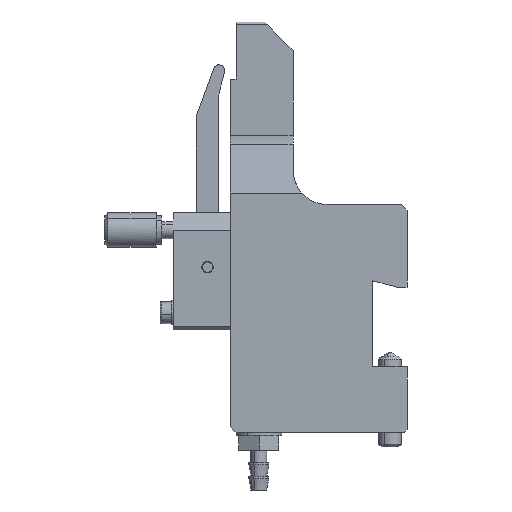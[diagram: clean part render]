
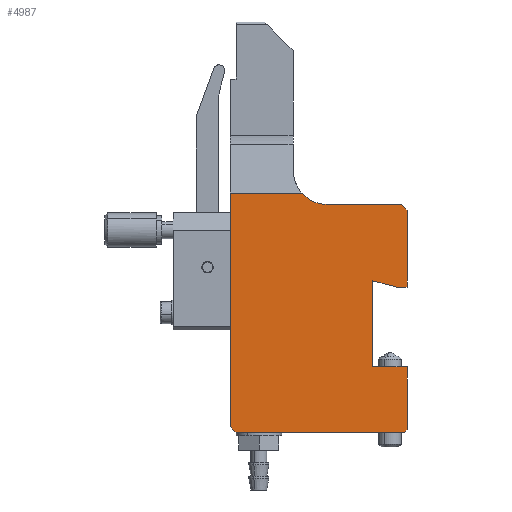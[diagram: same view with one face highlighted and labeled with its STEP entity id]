
A CAD part, left-side view. The second image highlights one B-rep face of the part: STEP entity #4987.
In plain terms, the highlighted planar face has unit normal (-1, 0, 0).
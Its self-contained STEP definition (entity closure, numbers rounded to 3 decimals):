
#43 = VERTEX_POINT ( 'NONE', #6798 ) ;
#167 = EDGE_CURVE ( 'NONE', #1605, #4426, #3188, .T. ) ;
#287 = EDGE_CURVE ( 'NONE', #6679, #3372, #1029, .T. ) ;
#479 = ORIENTED_EDGE ( 'NONE', *, *, #6846, .F. ) ;
#598 = CARTESIAN_POINT ( 'NONE',  ( -10., 31., 1. ) ) ;
#607 = ORIENTED_EDGE ( 'NONE', *, *, #5170, .T. ) ;
#608 = LINE ( 'NONE', #1385, #5720 ) ;
#763 = CARTESIAN_POINT ( 'NONE',  ( -10., 14., 46. ) ) ;
#870 = VECTOR ( 'NONE', #9788, 1000. ) ;
#1029 = LINE ( 'NONE', #4512, #4301 ) ;
#1181 = LINE ( 'NONE', #6470, #8304 ) ;
#1247 = AXIS2_PLACEMENT_3D ( 'NONE', #763, #4799, #2378 ) ;
#1294 = LINE ( 'NONE', #2610, #2313 ) ;
#1385 = CARTESIAN_POINT ( 'NONE',  ( -10., 6., 11.5 ) ) ;
#1597 = CARTESIAN_POINT ( 'NONE',  ( -10., 0., 39. ) ) ;
#1605 = VERTEX_POINT ( 'NONE', #4533 ) ;
#1818 = DIRECTION ( 'NONE',  ( 0., 0.707, 0.707 ) ) ;
#1878 = ORIENTED_EDGE ( 'NONE', *, *, #7493, .T. ) ;
#2313 = VECTOR ( 'NONE', #6573, 1000. ) ;
#2363 = LINE ( 'NONE', #8688, #6603 ) ;
#2378 = DIRECTION ( 'NONE',  ( 0., 0., 1. ) ) ;
#2420 = VECTOR ( 'NONE', #8417, 1000. ) ;
#2439 = LINE ( 'NONE', #5377, #7437 ) ;
#2447 = CARTESIAN_POINT ( 'NONE',  ( -10., -3.1, 46.2 ) ) ;
#2471 = ORIENTED_EDGE ( 'NONE', *, *, #287, .F. ) ;
#2496 = LINE ( 'NONE', #7313, #5487 ) ;
#2597 = VECTOR ( 'NONE', #5372, 1000. ) ;
#2610 = CARTESIAN_POINT ( 'NONE',  ( -10., 0.5, 0. ) ) ;
#2663 = CARTESIAN_POINT ( 'NONE',  ( -10., 0., 39. ) ) ;
#3098 = EDGE_CURVE ( 'NONE', #9707, #4393, #8348, .T. ) ;
#3115 = EDGE_CURVE ( 'NONE', #7685, #4393, #2496, .T. ) ;
#3188 = LINE ( 'NONE', #6062, #2420 ) ;
#3367 = EDGE_LOOP ( 'NONE', ( #2471, #3857, #5605, #9426, #9914, #479, #3648, #3836, #607, #8456, #4364, #10319, #5917, #1878 ) ) ;
#3372 = VERTEX_POINT ( 'NONE', #6924 ) ;
#3486 = EDGE_CURVE ( 'NONE', #10075, #8274, #2363, .T. ) ;
#3648 = ORIENTED_EDGE ( 'NONE', *, *, #4775, .F. ) ;
#3778 = DIRECTION ( 'NONE',  ( 0., -0.707, -0.707 ) ) ;
#3793 = CARTESIAN_POINT ( 'NONE',  ( -10., 0., 25.5 ) ) ;
#3836 = ORIENTED_EDGE ( 'NONE', *, *, #3486, .F. ) ;
#3857 = ORIENTED_EDGE ( 'NONE', *, *, #7811, .T. ) ;
#3957 = EDGE_CURVE ( 'NONE', #4426, #7474, #608, .T. ) ;
#4050 = DIRECTION ( 'NONE',  ( 0., 0., -1. ) ) ;
#4119 = LINE ( 'NONE', #9440, #2597 ) ;
#4182 = DIRECTION ( 'NONE',  ( 1., 0., 0. ) ) ;
#4301 = VECTOR ( 'NONE', #8549, 1000. ) ;
#4364 = ORIENTED_EDGE ( 'NONE', *, *, #7014, .T. ) ;
#4393 = VERTEX_POINT ( 'NONE', #7664 ) ;
#4426 = VERTEX_POINT ( 'NONE', #6792 ) ;
#4512 = CARTESIAN_POINT ( 'NONE',  ( -10., 0.5, 0. ) ) ;
#4533 = CARTESIAN_POINT ( 'NONE',  ( -10., 6., 26.6 ) ) ;
#4598 = DIRECTION ( 'NONE',  ( 0., 1., 0. ) ) ;
#4673 = PLANE ( 'NONE',  #6416 ) ;
#4775 = EDGE_CURVE ( 'NONE', #8274, #7573, #10066, .T. ) ;
#4799 = DIRECTION ( 'NONE',  ( 1., 0., 0. ) ) ;
#4969 = CIRCLE ( 'NONE', #1247, 6. ) ;
#4987 = ADVANCED_FACE ( 'NONE', ( #9194 ), #4673, .F. ) ;
#4995 = DIRECTION ( 'NONE',  ( 0., 0., -1. ) ) ;
#5006 = CARTESIAN_POINT ( 'NONE',  ( -10., 31., 1. ) ) ;
#5170 = EDGE_CURVE ( 'NONE', #10075, #7764, #5454, .T. ) ;
#5196 = VECTOR ( 'NONE', #4995, 1000. ) ;
#5372 = DIRECTION ( 'NONE',  ( 0., 0.966, 0.259 ) ) ;
#5377 = CARTESIAN_POINT ( 'NONE',  ( -10., 31., 1. ) ) ;
#5454 = LINE ( 'NONE', #2663, #9938 ) ;
#5484 = EDGE_CURVE ( 'NONE', #5725, #7764, #1181, .T. ) ;
#5487 = VECTOR ( 'NONE', #9722, 1000. ) ;
#5499 = DIRECTION ( 'NONE',  ( 0., 0., -1. ) ) ;
#5605 = ORIENTED_EDGE ( 'NONE', *, *, #7750, .F. ) ;
#5720 = VECTOR ( 'NONE', #6873, 1000. ) ;
#5725 = VERTEX_POINT ( 'NONE', #9812 ) ;
#5917 = ORIENTED_EDGE ( 'NONE', *, *, #3098, .F. ) ;
#6062 = CARTESIAN_POINT ( 'NONE',  ( -10., 6., 26.6 ) ) ;
#6416 = AXIS2_PLACEMENT_3D ( 'NONE', #2447, #4182, #4050 ) ;
#6470 = CARTESIAN_POINT ( 'NONE',  ( -10., 14., 40. ) ) ;
#6573 = DIRECTION ( 'NONE',  ( 0., -0.707, 0.707 ) ) ;
#6603 = VECTOR ( 'NONE', #5499, 1000. ) ;
#6613 = CARTESIAN_POINT ( 'NONE',  ( -10., 0., 11.5 ) ) ;
#6679 = VERTEX_POINT ( 'NONE', #10072 ) ;
#6792 = CARTESIAN_POINT ( 'NONE',  ( -10., 6., 11.5 ) ) ;
#6798 = CARTESIAN_POINT ( 'NONE',  ( -10., 0., 0.5 ) ) ;
#6846 = EDGE_CURVE ( 'NONE', #7573, #1605, #4119, .T. ) ;
#6873 = DIRECTION ( 'NONE',  ( 0., -1., 0. ) ) ;
#6924 = CARTESIAN_POINT ( 'NONE',  ( -10., 30., 0. ) ) ;
#7014 = EDGE_CURVE ( 'NONE', #5725, #7685, #4969, .T. ) ;
#7163 = CARTESIAN_POINT ( 'NONE',  ( -10., 18.472, 42. ) ) ;
#7313 = CARTESIAN_POINT ( 'NONE',  ( -10., 18.472, 42. ) ) ;
#7332 = VECTOR ( 'NONE', #4598, 1000. ) ;
#7437 = VECTOR ( 'NONE', #3778, 1000. ) ;
#7474 = VERTEX_POINT ( 'NONE', #7638 ) ;
#7493 = EDGE_CURVE ( 'NONE', #9707, #3372, #2439, .T. ) ;
#7573 = VERTEX_POINT ( 'NONE', #9479 ) ;
#7638 = CARTESIAN_POINT ( 'NONE',  ( -10., 0., 11.5 ) ) ;
#7664 = CARTESIAN_POINT ( 'NONE',  ( -10., 31., 42. ) ) ;
#7685 = VERTEX_POINT ( 'NONE', #7163 ) ;
#7750 = EDGE_CURVE ( 'NONE', #7474, #43, #8651, .T. ) ;
#7764 = VERTEX_POINT ( 'NONE', #9817 ) ;
#7811 = EDGE_CURVE ( 'NONE', #6679, #43, #1294, .T. ) ;
#8264 = CARTESIAN_POINT ( 'NONE',  ( -10., 0., 25.5 ) ) ;
#8274 = VERTEX_POINT ( 'NONE', #8264 ) ;
#8304 = VECTOR ( 'NONE', #9635, 1000. ) ;
#8348 = LINE ( 'NONE', #5006, #870 ) ;
#8417 = DIRECTION ( 'NONE',  ( 0., 0., -1. ) ) ;
#8456 = ORIENTED_EDGE ( 'NONE', *, *, #5484, .F. ) ;
#8549 = DIRECTION ( 'NONE',  ( 0., 1., 0. ) ) ;
#8651 = LINE ( 'NONE', #6613, #5196 ) ;
#8688 = CARTESIAN_POINT ( 'NONE',  ( -10., 0., 39. ) ) ;
#9194 = FACE_OUTER_BOUND ( 'NONE', #3367, .T. ) ;
#9426 = ORIENTED_EDGE ( 'NONE', *, *, #3957, .F. ) ;
#9440 = CARTESIAN_POINT ( 'NONE',  ( -10., 1.895, 25.5 ) ) ;
#9479 = CARTESIAN_POINT ( 'NONE',  ( -10., 1.895, 25.5 ) ) ;
#9635 = DIRECTION ( 'NONE',  ( 0., -1., 0. ) ) ;
#9707 = VERTEX_POINT ( 'NONE', #598 ) ;
#9722 = DIRECTION ( 'NONE',  ( 0., 1., 0. ) ) ;
#9788 = DIRECTION ( 'NONE',  ( 0., 0., 1. ) ) ;
#9812 = CARTESIAN_POINT ( 'NONE',  ( -10., 14., 40. ) ) ;
#9817 = CARTESIAN_POINT ( 'NONE',  ( -10., 1., 40. ) ) ;
#9914 = ORIENTED_EDGE ( 'NONE', *, *, #167, .F. ) ;
#9938 = VECTOR ( 'NONE', #1818, 1000. ) ;
#10066 = LINE ( 'NONE', #3793, #7332 ) ;
#10072 = CARTESIAN_POINT ( 'NONE',  ( -10., 0.5, 0. ) ) ;
#10075 = VERTEX_POINT ( 'NONE', #1597 ) ;
#10319 = ORIENTED_EDGE ( 'NONE', *, *, #3115, .T. ) ;
